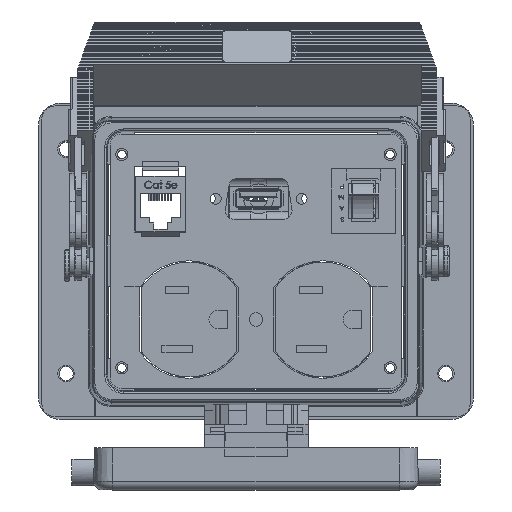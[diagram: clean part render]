
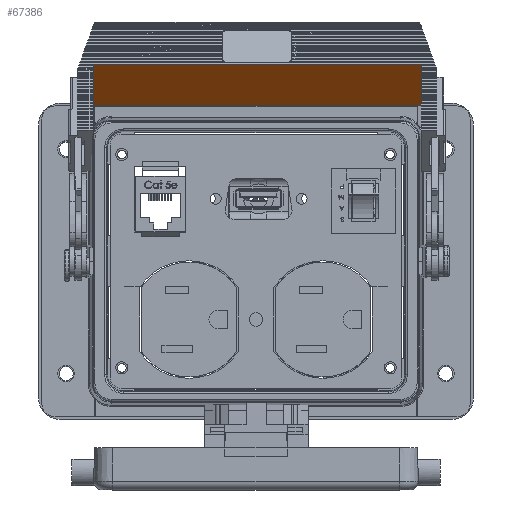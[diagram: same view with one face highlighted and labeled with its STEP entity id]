
A CAD part, top view. The second image highlights one B-rep face of the part: STEP entity #67386.
In plain terms, the highlighted planar face has unit normal (0, -0.699, 0.716).
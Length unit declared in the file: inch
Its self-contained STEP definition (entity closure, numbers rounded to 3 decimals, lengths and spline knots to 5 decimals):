
#41 = DIRECTION ( 'NONE',  ( -1., 0., 0. ) ) ;
#42 = VECTOR ( 'NONE', #41, 39.37008 ) ;
#43 = CARTESIAN_POINT ( 'NONE',  ( 1.883, 2.24079, 0.81917 ) ) ;
#44 = LINE ( 'NONE', #43, #42 ) ;
#408 = DIRECTION ( 'NONE',  ( 1., 0., 0. ) ) ;
#409 = VECTOR ( 'NONE', #408, 39.37008 ) ;
#410 = CARTESIAN_POINT ( 'NONE',  ( 1.883, 1.77886, 0.36818 ) ) ;
#411 = LINE ( 'NONE', #410, #409 ) ;
#22154 = CARTESIAN_POINT ( 'NONE',  ( 1.883, 1.77886, 0.36818 ) ) ;
#22163 = DIRECTION ( 'NONE',  ( 0., -0.716, -0.699 ) ) ;
#22165 = VECTOR ( 'NONE', #22163, 39.37008 ) ;
#22167 = CARTESIAN_POINT ( 'NONE',  ( 1.883, 2.38706, 0.96198 ) ) ;
#22169 = LINE ( 'NONE', #22167, #22165 ) ;
#22195 = CARTESIAN_POINT ( 'NONE',  ( 1.883, 2.24079, 0.81917 ) ) ;
#41489 = CARTESIAN_POINT ( 'NONE',  ( -1.857, 1.77886, 0.36818 ) ) ;
#41490 = CARTESIAN_POINT ( 'NONE',  ( -1.857, 2.24079, 0.81917 ) ) ;
#41491 = DIRECTION ( 'NONE',  ( 0., -0.716, -0.699 ) ) ;
#41492 = VECTOR ( 'NONE', #41491, 39.37008 ) ;
#41493 = CARTESIAN_POINT ( 'NONE',  ( -1.857, 2.38706, 0.96198 ) ) ;
#41494 = LINE ( 'NONE', #41493, #41492 ) ;
#62365 = EDGE_CURVE ( 'NONE', #62392, #62367, #22169, .T. ) ;
#62367 = VERTEX_POINT ( 'NONE', #22154 ) ;
#62392 = VERTEX_POINT ( 'NONE', #22195 ) ;
#67386 = ADVANCED_FACE ( 'NONE', ( #77766 ), #77813, .F. ) ;
#67391 = EDGE_LOOP ( 'NONE', ( #67413, #67428, #67745, #67540 ) ) ;
#67413 = ORIENTED_EDGE ( 'NONE', *, *, #62365, .F. ) ;
#67417 = EDGE_CURVE ( 'NONE', #62392, #68702, #44, .T. ) ;
#67428 = ORIENTED_EDGE ( 'NONE', *, *, #67417, .T. ) ;
#67540 = ORIENTED_EDGE ( 'NONE', *, *, #67544, .T. ) ;
#67544 = EDGE_CURVE ( 'NONE', #68703, #62367, #411, .T. ) ;
#67745 = ORIENTED_EDGE ( 'NONE', *, *, #68701, .T. ) ;
#68701 = EDGE_CURVE ( 'NONE', #68702, #68703, #41494, .T. ) ;
#68702 = VERTEX_POINT ( 'NONE', #41490 ) ;
#68703 = VERTEX_POINT ( 'NONE', #41489 ) ;
#77766 = FACE_OUTER_BOUND ( 'NONE', #67391, .T. ) ;
#77809 = DIRECTION ( 'NONE',  ( 0., 0.716, 0.699 ) ) ;
#77810 = DIRECTION ( 'NONE',  ( 0., 0.699, -0.716 ) ) ;
#77811 = CARTESIAN_POINT ( 'NONE',  ( 1.883, 2.38706, 0.96198 ) ) ;
#77812 = AXIS2_PLACEMENT_3D ( 'NONE', #77811, #77810, #77809 ) ;
#77813 = PLANE ( 'NONE',  #77812 ) ;
